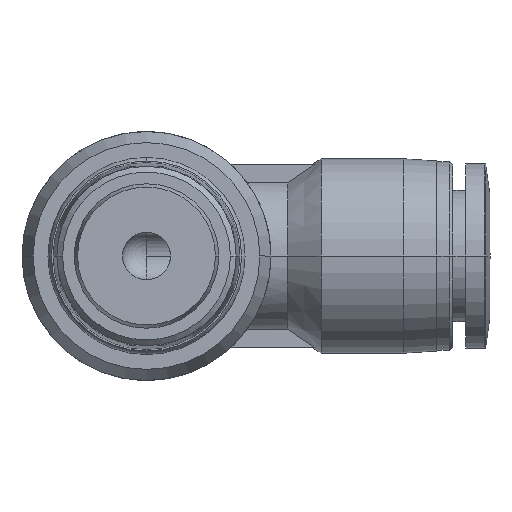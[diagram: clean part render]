
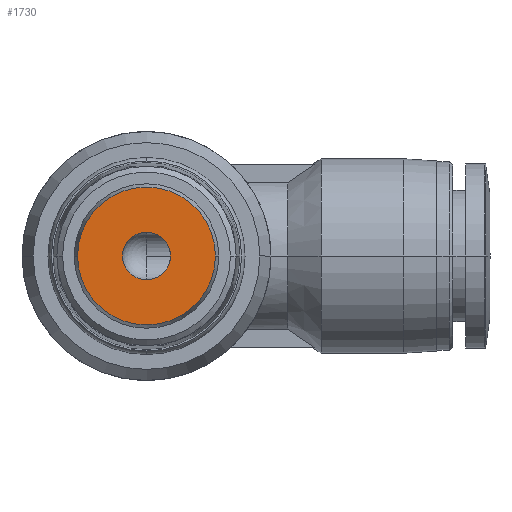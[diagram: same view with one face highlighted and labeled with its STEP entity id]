
A CAD part, front view. The second image highlights one B-rep face of the part: STEP entity #1730.
In plain terms, the highlighted planar face has unit normal (0, -1, 0).
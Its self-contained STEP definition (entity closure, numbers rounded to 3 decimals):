
#275 = EDGE_LOOP ( 'NONE', ( #8496, #2501 ) ) ;
#1354 = CARTESIAN_POINT ( 'NONE',  ( 0., -1.9, 0. ) ) ;
#1509 = CARTESIAN_POINT ( 'NONE',  ( 2.15, -1.9, 0. ) ) ;
#1730 = ADVANCED_FACE ( 'NONE', ( #5915, #10164 ), #14973, .T. ) ;
#2305 = AXIS2_PLACEMENT_3D ( 'NONE', #2432, #4977, #3367 ) ;
#2432 = CARTESIAN_POINT ( 'NONE',  ( -3.1, -1.9, 0. ) ) ;
#2501 = ORIENTED_EDGE ( 'NONE', *, *, #14548, .T. ) ;
#2523 = DIRECTION ( 'NONE',  ( -1., 0., 0. ) ) ;
#2589 = CIRCLE ( 'NONE', #4228, 6.2 ) ;
#3036 = EDGE_CURVE ( 'NONE', #12551, #12736, #9538, .T. ) ;
#3367 = DIRECTION ( 'NONE',  ( 0., 0., -1. ) ) ;
#3379 = DIRECTION ( 'NONE',  ( 0., 1., 0. ) ) ;
#4011 = DIRECTION ( 'NONE',  ( 0., 1., 0. ) ) ;
#4228 = AXIS2_PLACEMENT_3D ( 'NONE', #10466, #4011, #11909 ) ;
#4895 = CIRCLE ( 'NONE', #10059, 2.15 ) ;
#4977 = DIRECTION ( 'NONE',  ( 0., -1., 0. ) ) ;
#5915 = FACE_OUTER_BOUND ( 'NONE', #11020, .T. ) ;
#6090 = CARTESIAN_POINT ( 'NONE',  ( 0., -1.9, 0. ) ) ;
#6525 = CIRCLE ( 'NONE', #7881, 2.15 ) ;
#7159 = DIRECTION ( 'NONE',  ( -1., 0., 0. ) ) ;
#7611 = VERTEX_POINT ( 'NONE', #1509 ) ;
#7881 = AXIS2_PLACEMENT_3D ( 'NONE', #1354, #14228, #2523 ) ;
#8362 = EDGE_CURVE ( 'NONE', #12736, #12551, #2589, .T. ) ;
#8496 = ORIENTED_EDGE ( 'NONE', *, *, #14336, .T. ) ;
#9538 = CIRCLE ( 'NONE', #11717, 6.2 ) ;
#9979 = CARTESIAN_POINT ( 'NONE',  ( 0., -1.9, 0. ) ) ;
#10059 = AXIS2_PLACEMENT_3D ( 'NONE', #6090, #3379, #10088 ) ;
#10088 = DIRECTION ( 'NONE',  ( -1., 0., 0. ) ) ;
#10164 = FACE_BOUND ( 'NONE', #275, .T. ) ;
#10466 = CARTESIAN_POINT ( 'NONE',  ( 0., -1.9, 0. ) ) ;
#10663 = ORIENTED_EDGE ( 'NONE', *, *, #3036, .F. ) ;
#11020 = EDGE_LOOP ( 'NONE', ( #11218, #10663 ) ) ;
#11218 = ORIENTED_EDGE ( 'NONE', *, *, #8362, .F. ) ;
#11717 = AXIS2_PLACEMENT_3D ( 'NONE', #9979, #16404, #7159 ) ;
#11909 = DIRECTION ( 'NONE',  ( -1., 0., 0. ) ) ;
#12544 = CARTESIAN_POINT ( 'NONE',  ( 6.2, -1.9, 0. ) ) ;
#12551 = VERTEX_POINT ( 'NONE', #12544 ) ;
#12736 = VERTEX_POINT ( 'NONE', #14071 ) ;
#14071 = CARTESIAN_POINT ( 'NONE',  ( -6.2, -1.9, 0. ) ) ;
#14228 = DIRECTION ( 'NONE',  ( 0., 1., 0. ) ) ;
#14336 = EDGE_CURVE ( 'NONE', #16261, #7611, #4895, .T. ) ;
#14548 = EDGE_CURVE ( 'NONE', #7611, #16261, #6525, .T. ) ;
#14973 = PLANE ( 'NONE',  #2305 ) ;
#15975 = CARTESIAN_POINT ( 'NONE',  ( -2.15, -1.9, 0. ) ) ;
#16261 = VERTEX_POINT ( 'NONE', #15975 ) ;
#16404 = DIRECTION ( 'NONE',  ( 0., 1., 0. ) ) ;
